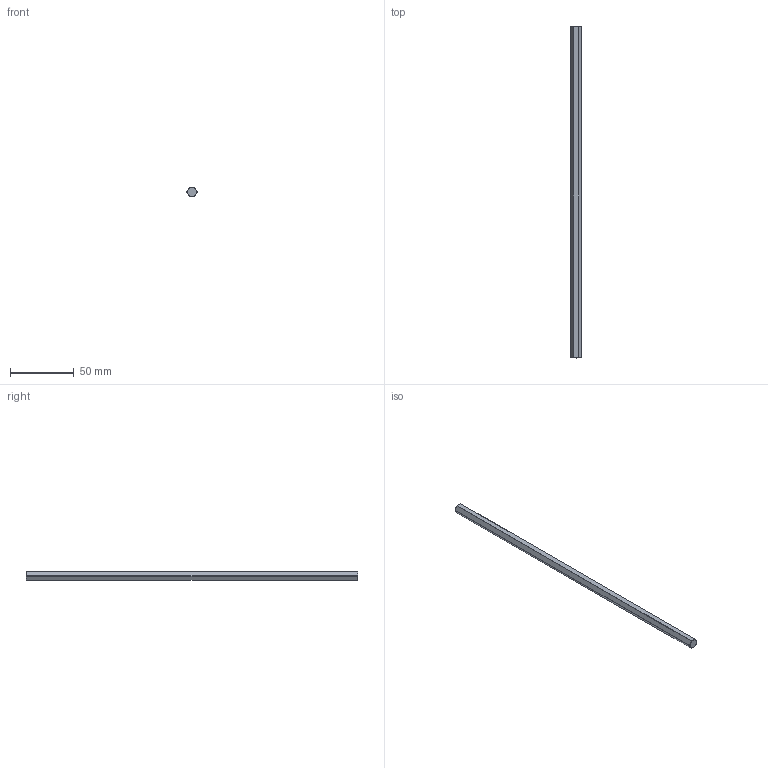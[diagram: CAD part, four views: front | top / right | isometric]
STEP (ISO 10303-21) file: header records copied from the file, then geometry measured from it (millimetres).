
FILE_DESCRIPTION (( 'STEP AP203' ), '1' );
FILE_NAME ('2102-0008-0260.STEP', '2019-01-22T15:22:59', ( '' ), ( '' ), 'SwSTEP 2.0', 'SolidWorks 2016', '' );
FILE_SCHEMA (( 'CONFIG_CONTROL_DESIGN' ));
Length unit declared in the file: millimetre
Products named in the file (1): 2102-0008-0260
Bounding box: 8 x 260 x 7 mm (x, y, z)
Volume: 11027.2 mm3; surface area: 6348.7 mm2
Topology: 1 solids, 1 shells, 26 faces, 60 edges, 36 vertices
Faces by surface type: cone 12, plane 8, cylinder 6
Entity records: 913 total; most frequent: CARTESIAN_POINT 275, ORIENTED_EDGE 120, DIRECTION 114, EDGE_CURVE 60, AXIS2_PLACEMENT_3D 51, VERTEX_POINT 36, ADVANCED_FACE 26, FACE_OUTER_BOUND 26
